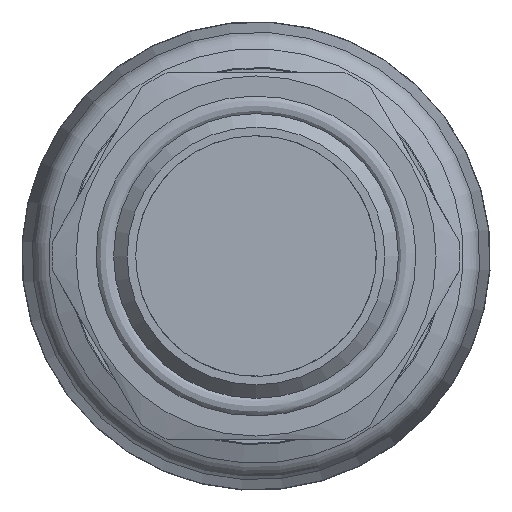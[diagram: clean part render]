
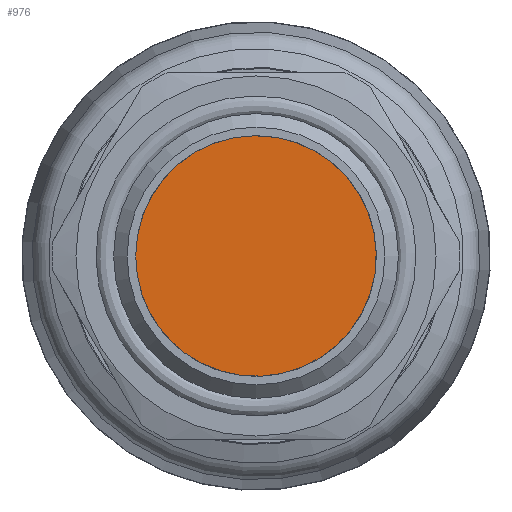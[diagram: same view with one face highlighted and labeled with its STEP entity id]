
A CAD part, left-side view. The second image highlights one B-rep face of the part: STEP entity #976.
In plain terms, the highlighted planar face has unit normal (-1, 0, 0).
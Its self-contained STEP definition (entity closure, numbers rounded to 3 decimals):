
#172=PLANE('',#1112);
#230=FACE_OUTER_BOUND('',#349,.T.);
#349=EDGE_LOOP('',(#756));
#442=CIRCLE('',#1113,8.85);
#515=VERTEX_POINT('',#1712);
#604=EDGE_CURVE('',#515,#515,#442,.T.);
#756=ORIENTED_EDGE('',*,*,#604,.T.);
#976=ADVANCED_FACE('',(#230),#172,.T.);
#1112=AXIS2_PLACEMENT_3D('',#1711,#1367,#1368);
#1113=AXIS2_PLACEMENT_3D('',#1713,#1369,#1370);
#1367=DIRECTION('center_axis',(-1.,0.,0.));
#1368=DIRECTION('ref_axis',(0.,0.889,0.458));
#1369=DIRECTION('center_axis',(-1.,0.,0.));
#1370=DIRECTION('ref_axis',(0.,0.458,-0.889));
#1711=CARTESIAN_POINT('Origin',(-61.83,3.921,-7.615));
#1712=CARTESIAN_POINT('',(-61.83,4.052,-7.868));
#1713=CARTESIAN_POINT('Origin',(-61.83,0.,
0.));
